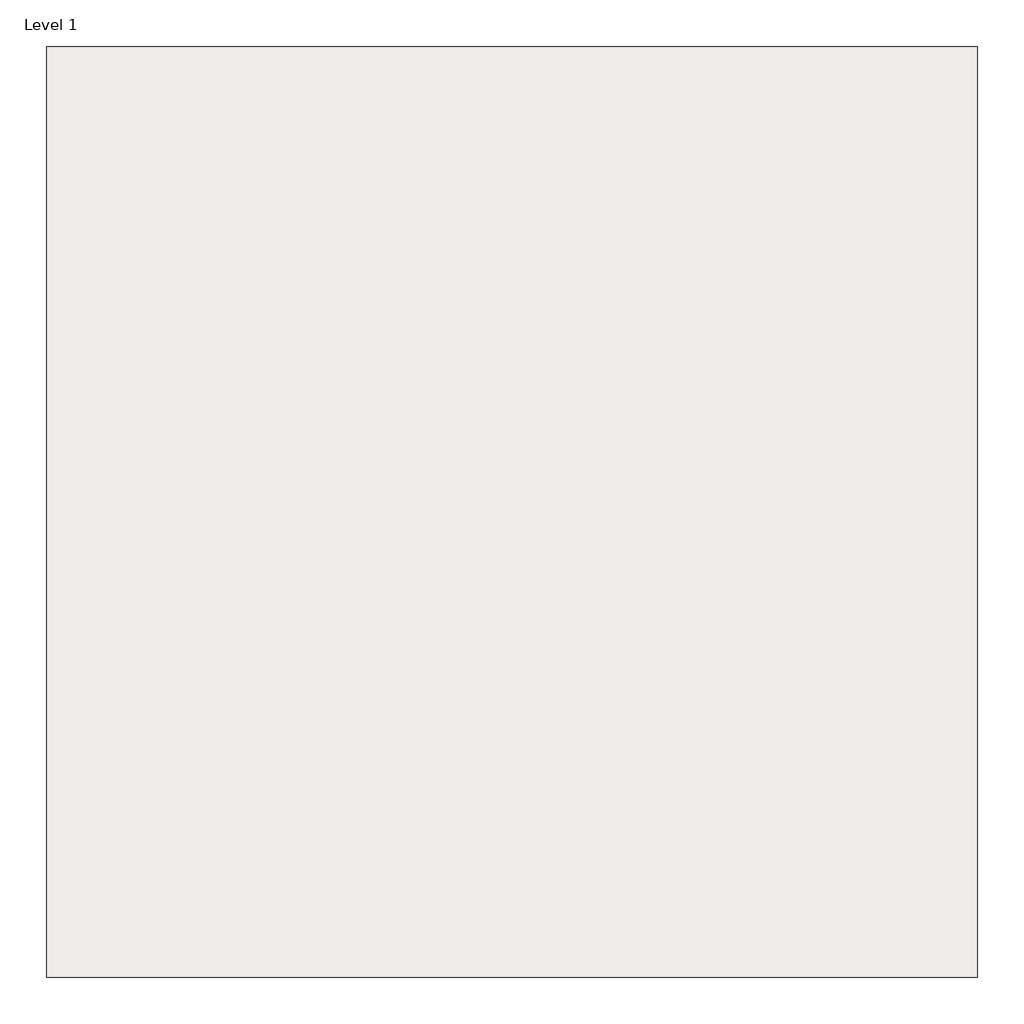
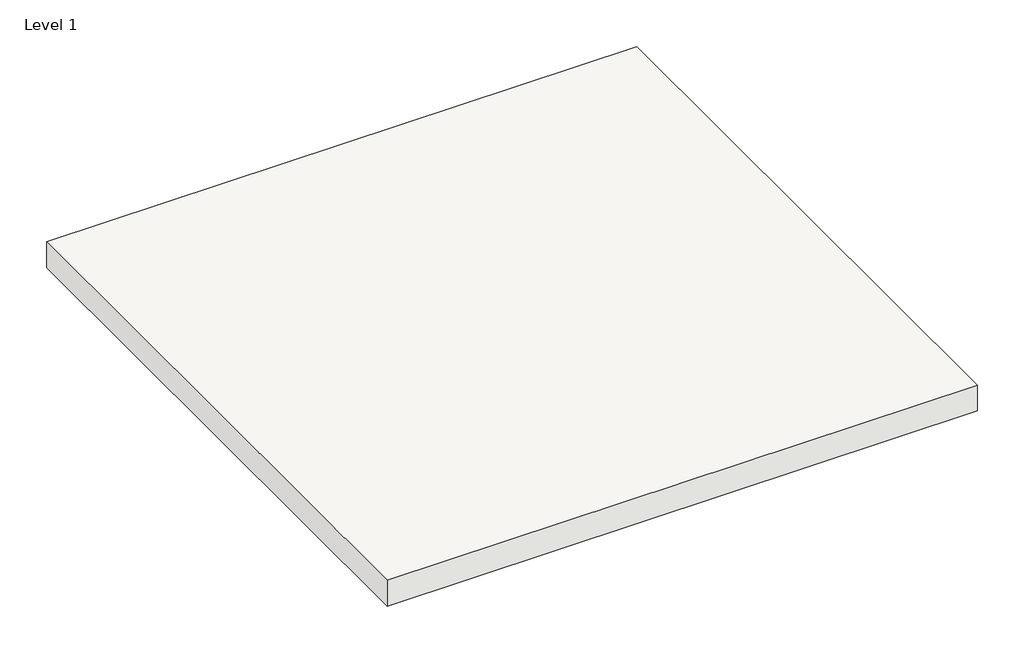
# One storey: 1 covering.
"""IFC4 building model written with IfcOpenShell, lengths in millimetres."""

from ifc_helpers import new_model, si_unit, origin, origin_with_axes, place, context, project, spatial, polyline, outline, extrude, element, save

model = new_model("IFC4")

# Units and contexts
model_context = context("Model", 3, world=origin())
ifc_project = project(units=[si_unit("LENGTHUNIT", "METRE", prefix="MILLI")], contexts=[model_context])

# Site, building, storey
site = spatial("IfcSite", under=ifc_project)
building = spatial("IfcBuilding", under=site)
storey = spatial("IfcBuildingStorey", under=building, Name="Level 1", Elevation=0.0)

# Covering
placement = place(None, origin())
element("IfcCovering", 1, ObjectType="RIGIPS - 4.05.71 (138)", at=placement, inside=storey, context=model_context, shape_type="SweptSolid", body=[
    extrude(outline(polyline([(-1500.0, 1500.0), (1500.0, 1500.0), (1500.0, -1500.0), (-1500.0, -1500.0), (-1500.0, 1500.0)])), origin_with_axes(), (0.0, 0.0, 1.0), 137.5),
])

save(model, "model.ifc")
